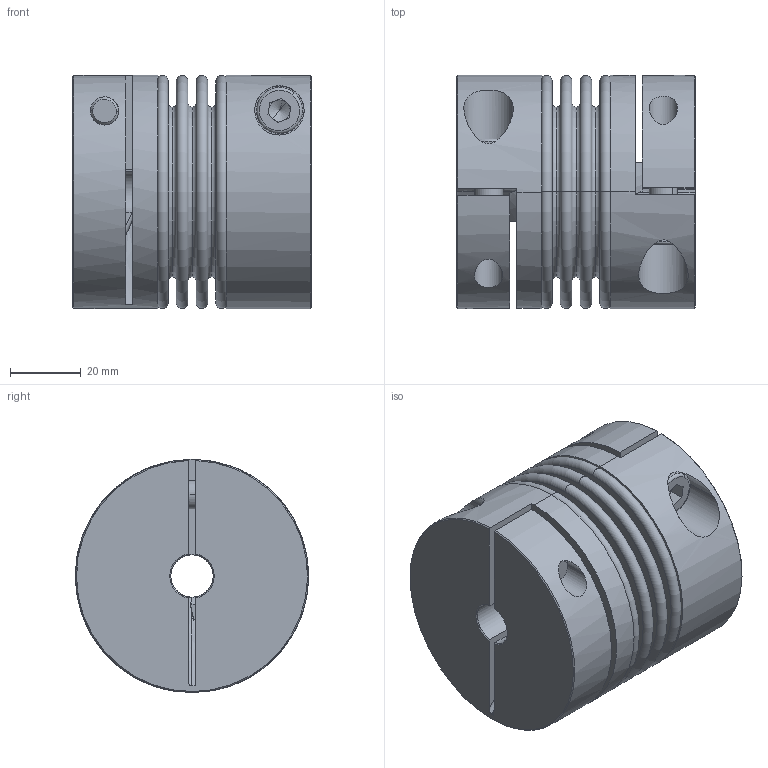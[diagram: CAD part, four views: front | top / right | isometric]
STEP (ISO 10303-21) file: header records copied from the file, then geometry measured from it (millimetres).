
FILE_DESCRIPTION (( 'STEP AP214' ), '1' );
FILE_NAME ('KB4C-60-67.STEP', '2011-01-19T18:16:26', ( '' ), ( 'KAPCAD' ), 'SwSTEP 2.0', 'SolidWorks 2002296', '' );
FILE_SCHEMA (( 'AUTOMOTIVE_DESIGN' ));
Length unit declared in the file: millimetre
Products named in the file (4): KB4C-60-67; KN60C_Standard; BK60_Standard; Socket Head Cap Screw_DIN_DIN 912 M8 x 25 --- 25N
Assembly tree (5 placements, depth 2):
  KB4C-60-67
    KN60C_Standard  x2
    BK60_Standard
    Socket Head Cap Screw_DIN_DIN 912 M8 x 25 --- 25N  x2
Bounding box: 67.5 x 66 x 66 mm (x, y, z)
Volume: 153941.5 mm3; surface area: 69104.8 mm2
Topology: 5 solids, 5 shells, 190 faces, 434 edges, 270 vertices
Faces by surface type: plane 70, torus 54, cylinder 46, cone 20
Entity records: 3977 total; most frequent: CARTESIAN_POINT 819, DIRECTION 739, ORIENTED_EDGE 570, AXIS2_PLACEMENT_3D 332, EDGE_CURVE 285, CIRCLE 194, VERTEX_POINT 179, EDGE_LOOP 156
